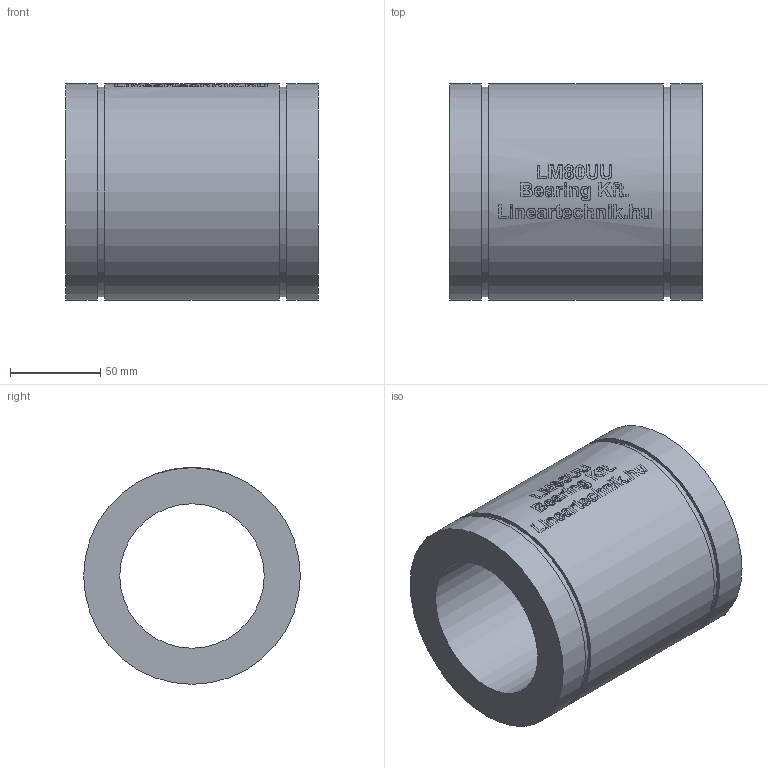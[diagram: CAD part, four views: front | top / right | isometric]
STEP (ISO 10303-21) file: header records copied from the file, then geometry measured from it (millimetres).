
FILE_DESCRIPTION(/* description */ ('Huosing for flange nuts'),/* implementation_level */ '2;1');
FILE_NAME(/* name */ 'LM80UU',/* time_stamp */ '2019-05-07T14:09:05+02:00',/* author */ ('VĂ©gh MĂˇtĂ©'),/* organization */ ('Bearing Kft'),/* preprocessor_version */ 'ST-DEVELOPER v16.7',/* originating_system */ 'DEX',/* authorisation */ $);
FILE_SCHEMA (('AUTOMOTIVE_DESIGN {1 0 10303 214 3 1 1}'));
Length unit declared in the file: millimetre
Products named in the file (1): LM80UU
Bounding box: 140 x 120 x 120 mm (x, y, z)
Volume: 873404.2 mm3; surface area: 103488.4 mm2
Topology: 1 solids, 1 shells, 298 faces, 737 edges, 492 vertices
Faces by surface type: plane 151, bspline 94, cylinder 53
Full cylindrical faces by diameter (mm): 80 x1, 116 x2, 120 x3
Entity records: 23915 total; most frequent: CARTESIAN_POINT 17356, ORIENTED_EDGE 1448, DIRECTION 1080, EDGE_CURVE 724, VERTEX_POINT 490, LINE 398, VECTOR 398, EDGE_LOOP 362
